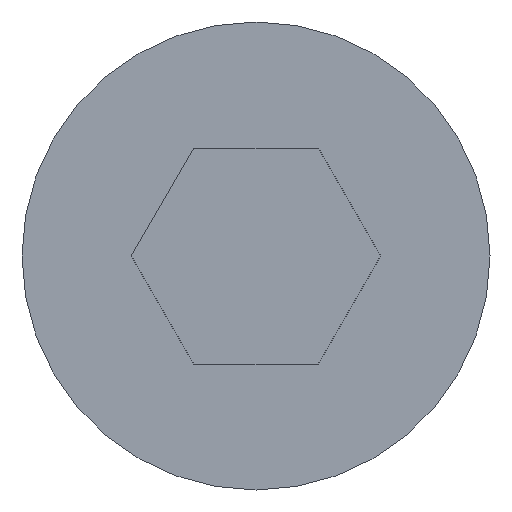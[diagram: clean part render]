
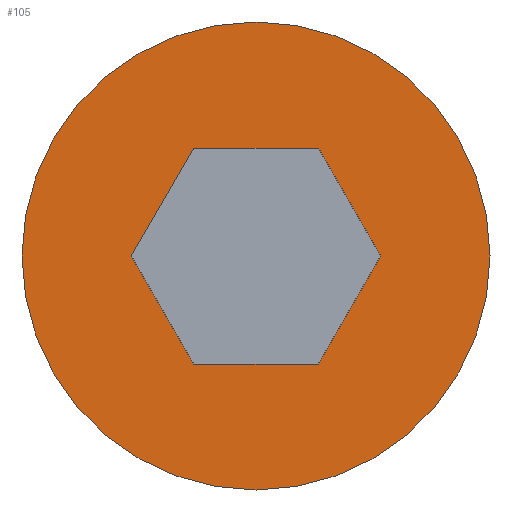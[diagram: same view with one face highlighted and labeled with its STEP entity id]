
A CAD part, left-side view. The second image highlights one B-rep face of the part: STEP entity #105.
In plain terms, the highlighted planar face has unit normal (-1, 0, 0).
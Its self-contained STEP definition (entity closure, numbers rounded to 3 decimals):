
#22 = VERTEX_POINT('',#23);
#23 = CARTESIAN_POINT('',(0.,6.5,0.));
#32 = CYLINDRICAL_SURFACE('',#33,6.5);
#33 = AXIS2_PLACEMENT_3D('',#34,#35,#36);
#34 = CARTESIAN_POINT('',(0.,0.,0.));
#35 = DIRECTION('',(-1.,-0.,-0.));
#36 = DIRECTION('',(0.,1.,0.));
#79 = EDGE_CURVE('',#22,#22,#80,.T.);
#80 = SURFACE_CURVE('',#81,(#86,#93),.PCURVE_S1.);
#81 = CIRCLE('',#82,6.5);
#82 = AXIS2_PLACEMENT_3D('',#83,#84,#85);
#83 = CARTESIAN_POINT('',(0.,0.,0.));
#84 = DIRECTION('',(1.,0.,0.));
#85 = DIRECTION('',(0.,1.,0.));
#86 = PCURVE('',#32,#87);
#87 = DEFINITIONAL_REPRESENTATION('',(#88),#92);
#88 = LINE('',#89,#90);
#89 = CARTESIAN_POINT('',(-0.,0.));
#90 = VECTOR('',#91,1.);
#91 = DIRECTION('',(-1.,0.));
#92 = ( GEOMETRIC_REPRESENTATION_CONTEXT(2) 
PARAMETRIC_REPRESENTATION_CONTEXT() REPRESENTATION_CONTEXT('2D SPACE',''
  ) );
#93 = PCURVE('',#94,#99);
#94 = PLANE('',#95);
#95 = AXIS2_PLACEMENT_3D('',#96,#97,#98);
#96 = CARTESIAN_POINT('',(0.,0.,0.));
#97 = DIRECTION('',(1.,0.,0.));
#98 = DIRECTION('',(-0.,0.,1.));
#99 = DEFINITIONAL_REPRESENTATION('',(#100),#104);
#100 = CIRCLE('',#101,6.5);
#101 = AXIS2_PLACEMENT_2D('',#102,#103);
#102 = CARTESIAN_POINT('',(0.,0.));
#103 = DIRECTION('',(0.,-1.));
#104 = ( GEOMETRIC_REPRESENTATION_CONTEXT(2) 
PARAMETRIC_REPRESENTATION_CONTEXT() REPRESENTATION_CONTEXT('2D SPACE',''
  ) );
#105 = ADVANCED_FACE('',(#106,#109),#94,.F.);
#106 = FACE_BOUND('',#107,.F.);
#107 = EDGE_LOOP('',(#108));
#108 = ORIENTED_EDGE('',*,*,#79,.T.);
#109 = FACE_BOUND('',#110,.F.);
#110 = EDGE_LOOP('',(#111,#141,#169,#197,#225,#253));
#111 = ORIENTED_EDGE('',*,*,#112,.T.);
#112 = EDGE_CURVE('',#113,#115,#117,.T.);
#113 = VERTEX_POINT('',#114);
#114 = CARTESIAN_POINT('',(0.,-1.732,-3.));
#115 = VERTEX_POINT('',#116);
#116 = CARTESIAN_POINT('',(0.,-3.464,0.));
#117 = SURFACE_CURVE('',#118,(#122,#129),.PCURVE_S1.);
#118 = LINE('',#119,#120);
#119 = CARTESIAN_POINT('',(0.,-1.732,-3.));
#120 = VECTOR('',#121,1.);
#121 = DIRECTION('',(0.,-0.5,0.866));
#122 = PCURVE('',#94,#123);
#123 = DEFINITIONAL_REPRESENTATION('',(#124),#128);
#124 = LINE('',#125,#126);
#125 = CARTESIAN_POINT('',(-3.,1.732));
#126 = VECTOR('',#127,1.);
#127 = DIRECTION('',(0.866,0.5));
#128 = ( GEOMETRIC_REPRESENTATION_CONTEXT(2) 
PARAMETRIC_REPRESENTATION_CONTEXT() REPRESENTATION_CONTEXT('2D SPACE',''
  ) );
#129 = PCURVE('',#130,#135);
#130 = PLANE('',#131);
#131 = AXIS2_PLACEMENT_3D('',#132,#133,#134);
#132 = CARTESIAN_POINT('',(0.,-1.732,-3.));
#133 = DIRECTION('',(0.,-0.866,-0.5));
#134 = DIRECTION('',(0.,-0.5,0.866));
#135 = DEFINITIONAL_REPRESENTATION('',(#136),#140);
#136 = LINE('',#137,#138);
#137 = CARTESIAN_POINT('',(0.,0.));
#138 = VECTOR('',#139,1.);
#139 = DIRECTION('',(1.,0.));
#140 = ( GEOMETRIC_REPRESENTATION_CONTEXT(2) 
PARAMETRIC_REPRESENTATION_CONTEXT() REPRESENTATION_CONTEXT('2D SPACE',''
  ) );
#141 = ORIENTED_EDGE('',*,*,#142,.T.);
#142 = EDGE_CURVE('',#115,#143,#145,.T.);
#143 = VERTEX_POINT('',#144);
#144 = CARTESIAN_POINT('',(0.,-1.732,3.));
#145 = SURFACE_CURVE('',#146,(#150,#157),.PCURVE_S1.);
#146 = LINE('',#147,#148);
#147 = CARTESIAN_POINT('',(0.,-3.464,0.));
#148 = VECTOR('',#149,1.);
#149 = DIRECTION('',(-0.,0.5,0.866));
#150 = PCURVE('',#94,#151);
#151 = DEFINITIONAL_REPRESENTATION('',(#152),#156);
#152 = LINE('',#153,#154);
#153 = CARTESIAN_POINT('',(0.,3.464));
#154 = VECTOR('',#155,1.);
#155 = DIRECTION('',(0.866,-0.5));
#156 = ( GEOMETRIC_REPRESENTATION_CONTEXT(2) 
PARAMETRIC_REPRESENTATION_CONTEXT() REPRESENTATION_CONTEXT('2D SPACE',''
  ) );
#157 = PCURVE('',#158,#163);
#158 = PLANE('',#159);
#159 = AXIS2_PLACEMENT_3D('',#160,#161,#162);
#160 = CARTESIAN_POINT('',(0.,-3.464,0.));
#161 = DIRECTION('',(0.,-0.866,0.5));
#162 = DIRECTION('',(-0.,0.5,0.866));
#163 = DEFINITIONAL_REPRESENTATION('',(#164),#168);
#164 = LINE('',#165,#166);
#165 = CARTESIAN_POINT('',(0.,0.));
#166 = VECTOR('',#167,1.);
#167 = DIRECTION('',(1.,0.));
#168 = ( GEOMETRIC_REPRESENTATION_CONTEXT(2) 
PARAMETRIC_REPRESENTATION_CONTEXT() REPRESENTATION_CONTEXT('2D SPACE',''
  ) );
#169 = ORIENTED_EDGE('',*,*,#170,.T.);
#170 = EDGE_CURVE('',#143,#171,#173,.T.);
#171 = VERTEX_POINT('',#172);
#172 = CARTESIAN_POINT('',(-0.,1.732,3.));
#173 = SURFACE_CURVE('',#174,(#178,#185),.PCURVE_S1.);
#174 = LINE('',#175,#176);
#175 = CARTESIAN_POINT('',(0.,-1.732,3.));
#176 = VECTOR('',#177,1.);
#177 = DIRECTION('',(-0.,1.,0.));
#178 = PCURVE('',#94,#179);
#179 = DEFINITIONAL_REPRESENTATION('',(#180),#184);
#180 = LINE('',#181,#182);
#181 = CARTESIAN_POINT('',(3.,1.732));
#182 = VECTOR('',#183,1.);
#183 = DIRECTION('',(0.,-1.));
#184 = ( GEOMETRIC_REPRESENTATION_CONTEXT(2) 
PARAMETRIC_REPRESENTATION_CONTEXT() REPRESENTATION_CONTEXT('2D SPACE',''
  ) );
#185 = PCURVE('',#186,#191);
#186 = PLANE('',#187);
#187 = AXIS2_PLACEMENT_3D('',#188,#189,#190);
#188 = CARTESIAN_POINT('',(0.,-1.732,3.));
#189 = DIRECTION('',(0.,0.,1.));
#190 = DIRECTION('',(-0.,1.,0.));
#191 = DEFINITIONAL_REPRESENTATION('',(#192),#196);
#192 = LINE('',#193,#194);
#193 = CARTESIAN_POINT('',(0.,0.));
#194 = VECTOR('',#195,1.);
#195 = DIRECTION('',(1.,0.));
#196 = ( GEOMETRIC_REPRESENTATION_CONTEXT(2) 
PARAMETRIC_REPRESENTATION_CONTEXT() REPRESENTATION_CONTEXT('2D SPACE',''
  ) );
#197 = ORIENTED_EDGE('',*,*,#198,.T.);
#198 = EDGE_CURVE('',#171,#199,#201,.T.);
#199 = VERTEX_POINT('',#200);
#200 = CARTESIAN_POINT('',(-0.,3.464,0.));
#201 = SURFACE_CURVE('',#202,(#206,#213),.PCURVE_S1.);
#202 = LINE('',#203,#204);
#203 = CARTESIAN_POINT('',(-0.,1.732,3.));
#204 = VECTOR('',#205,1.);
#205 = DIRECTION('',(0.,0.5,-0.866));
#206 = PCURVE('',#94,#207);
#207 = DEFINITIONAL_REPRESENTATION('',(#208),#212);
#208 = LINE('',#209,#210);
#209 = CARTESIAN_POINT('',(3.,-1.732));
#210 = VECTOR('',#211,1.);
#211 = DIRECTION('',(-0.866,-0.5));
#212 = ( GEOMETRIC_REPRESENTATION_CONTEXT(2) 
PARAMETRIC_REPRESENTATION_CONTEXT() REPRESENTATION_CONTEXT('2D SPACE',''
  ) );
#213 = PCURVE('',#214,#219);
#214 = PLANE('',#215);
#215 = AXIS2_PLACEMENT_3D('',#216,#217,#218);
#216 = CARTESIAN_POINT('',(0.,1.732,3.));
#217 = DIRECTION('',(-0.,0.866,0.5));
#218 = DIRECTION('',(0.,0.5,-0.866));
#219 = DEFINITIONAL_REPRESENTATION('',(#220),#224);
#220 = LINE('',#221,#222);
#221 = CARTESIAN_POINT('',(0.,0.));
#222 = VECTOR('',#223,1.);
#223 = DIRECTION('',(1.,0.));
#224 = ( GEOMETRIC_REPRESENTATION_CONTEXT(2) 
PARAMETRIC_REPRESENTATION_CONTEXT() REPRESENTATION_CONTEXT('2D SPACE',''
  ) );
#225 = ORIENTED_EDGE('',*,*,#226,.T.);
#226 = EDGE_CURVE('',#199,#227,#229,.T.);
#227 = VERTEX_POINT('',#228);
#228 = CARTESIAN_POINT('',(0.,1.732,-3.));
#229 = SURFACE_CURVE('',#230,(#234,#241),.PCURVE_S1.);
#230 = LINE('',#231,#232);
#231 = CARTESIAN_POINT('',(-0.,3.464,0.));
#232 = VECTOR('',#233,1.);
#233 = DIRECTION('',(0.,-0.5,-0.866));
#234 = PCURVE('',#94,#235);
#235 = DEFINITIONAL_REPRESENTATION('',(#236),#240);
#236 = LINE('',#237,#238);
#237 = CARTESIAN_POINT('',(0.,-3.464));
#238 = VECTOR('',#239,1.);
#239 = DIRECTION('',(-0.866,0.5));
#240 = ( GEOMETRIC_REPRESENTATION_CONTEXT(2) 
PARAMETRIC_REPRESENTATION_CONTEXT() REPRESENTATION_CONTEXT('2D SPACE',''
  ) );
#241 = PCURVE('',#242,#247);
#242 = PLANE('',#243);
#243 = AXIS2_PLACEMENT_3D('',#244,#245,#246);
#244 = CARTESIAN_POINT('',(0.,3.464,0.));
#245 = DIRECTION('',(0.,0.866,-0.5));
#246 = DIRECTION('',(0.,-0.5,-0.866));
#247 = DEFINITIONAL_REPRESENTATION('',(#248),#252);
#248 = LINE('',#249,#250);
#249 = CARTESIAN_POINT('',(0.,0.));
#250 = VECTOR('',#251,1.);
#251 = DIRECTION('',(1.,0.));
#252 = ( GEOMETRIC_REPRESENTATION_CONTEXT(2) 
PARAMETRIC_REPRESENTATION_CONTEXT() REPRESENTATION_CONTEXT('2D SPACE',''
  ) );
#253 = ORIENTED_EDGE('',*,*,#254,.T.);
#254 = EDGE_CURVE('',#227,#113,#255,.T.);
#255 = SURFACE_CURVE('',#256,(#260,#267),.PCURVE_S1.);
#256 = LINE('',#257,#258);
#257 = CARTESIAN_POINT('',(0.,1.732,-3.));
#258 = VECTOR('',#259,1.);
#259 = DIRECTION('',(0.,-1.,0.));
#260 = PCURVE('',#94,#261);
#261 = DEFINITIONAL_REPRESENTATION('',(#262),#266);
#262 = LINE('',#263,#264);
#263 = CARTESIAN_POINT('',(-3.,-1.732));
#264 = VECTOR('',#265,1.);
#265 = DIRECTION('',(0.,1.));
#266 = ( GEOMETRIC_REPRESENTATION_CONTEXT(2) 
PARAMETRIC_REPRESENTATION_CONTEXT() REPRESENTATION_CONTEXT('2D SPACE',''
  ) );
#267 = PCURVE('',#268,#273);
#268 = PLANE('',#269);
#269 = AXIS2_PLACEMENT_3D('',#270,#271,#272);
#270 = CARTESIAN_POINT('',(0.,1.732,-3.));
#271 = DIRECTION('',(0.,0.,-1.));
#272 = DIRECTION('',(0.,-1.,0.));
#273 = DEFINITIONAL_REPRESENTATION('',(#274),#278);
#274 = LINE('',#275,#276);
#275 = CARTESIAN_POINT('',(0.,0.));
#276 = VECTOR('',#277,1.);
#277 = DIRECTION('',(1.,0.));
#278 = ( GEOMETRIC_REPRESENTATION_CONTEXT(2) 
PARAMETRIC_REPRESENTATION_CONTEXT() REPRESENTATION_CONTEXT('2D SPACE',''
  ) );
